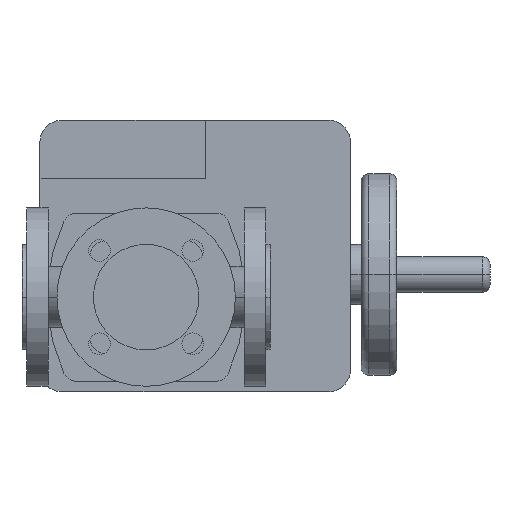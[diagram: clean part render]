
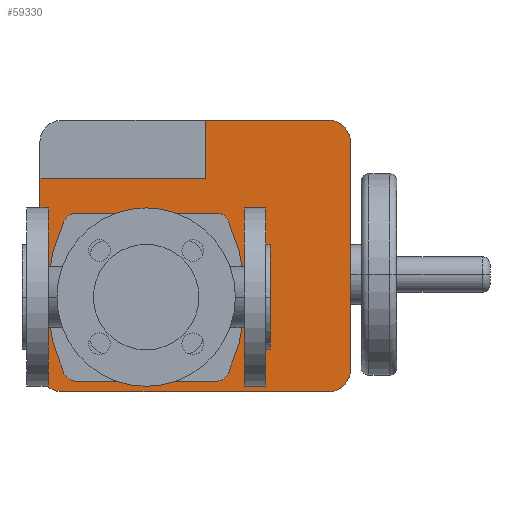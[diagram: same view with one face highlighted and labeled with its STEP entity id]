
A CAD part, front view. The second image highlights one B-rep face of the part: STEP entity #59330.
In plain terms, the highlighted planar face has unit normal (0, -1, 0).
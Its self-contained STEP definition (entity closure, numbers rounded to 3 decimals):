
#51270=CARTESIAN_POINT('',(118.1,569.,38.25));
#51280=DIRECTION('',(0.,0.,-1.));
#51290=VECTOR('',#51280,1.);
#51300=LINE('',#51270,#51290);
#51310=CARTESIAN_POINT('',(118.1,569.,114.));
#51320=VERTEX_POINT('',#51310);
#51330=CARTESIAN_POINT('',(118.1,569.,76.5));
#51340=VERTEX_POINT('',#51330);
#51350=EDGE_CURVE('',#51320,#51340,#51300,.T.);
#53980=CARTESIAN_POINT('',(211.6,569.,100.));
#53990=VERTEX_POINT('',#53980);
#54040=CARTESIAN_POINT('',(197.6,569.,100.));
#54050=DIRECTION('',(0.,1.,0.));
#54060=DIRECTION('',(0.,0.,1.));
#54070=AXIS2_PLACEMENT_3D('',#54040,#54050,#54060);
#54080=CIRCLE('',#54070,14.);
#54090=CARTESIAN_POINT('',(197.6,569.,114.));
#54100=VERTEX_POINT('',#54090);
#54110=EDGE_CURVE('',#54100,#53990,#54080,.T.);
#57640=CARTESIAN_POINT('',(197.6,569.,-61.));
#57650=VERTEX_POINT('',#57640);
#57700=CARTESIAN_POINT('',(197.6,569.,-47.));
#57710=DIRECTION('',(0.,1.,0.));
#57720=DIRECTION('',(1.,0.,0.));
#57730=AXIS2_PLACEMENT_3D('',#57700,#57710,#57720);
#57740=CIRCLE('',#57730,14.);
#57750=CARTESIAN_POINT('',(211.6,569.,-47.));
#57760=VERTEX_POINT('',#57750);
#57770=EDGE_CURVE('',#57760,#57650,#57740,.T.);
#58080=CARTESIAN_POINT('',(80.,569.,0.));
#58090=DIRECTION('',(0.,1.,0.));
#58100=DIRECTION('',(0.,0.,1.));
#58110=AXIS2_PLACEMENT_3D('',#58080,#58090,#58100);
#58120=PLANE('',#58110);
#58130=CARTESIAN_POINT('',(132.2,569.,0.));
#58140=DIRECTION('',(0.,1.,0.));
#58150=DIRECTION('',(-0.906,0.,-0.422));
#58160=AXIS2_PLACEMENT_3D('',#58130,#58140,#58150);
#58170=CIRCLE('',#58160,116.);
#58180=CARTESIAN_POINT('',(27.058,569.,-49.002));
#58190=VERTEX_POINT('',#58180);
#58200=CARTESIAN_POINT('',(27.058,569.,49.002));
#58210=VERTEX_POINT('',#58200);
#58220=EDGE_CURVE('',#58190,#58210,#58170,.T.);
#58230=ORIENTED_EDGE('',*,*,#58220,.T.);
#58240=CARTESIAN_POINT('',(35.216,569.,-45.2));
#58250=DIRECTION('',(0.,1.,0.));
#58260=DIRECTION('',(0.,0.,-1.));
#58270=AXIS2_PLACEMENT_3D('',#58240,#58250,#58260);
#58280=CIRCLE('',#58270,9.);
#58290=CARTESIAN_POINT('',(35.216,569.,-54.2));
#58300=VERTEX_POINT('',#58290);
#58310=EDGE_CURVE('',#58300,#58190,#58280,.T.);
#58320=ORIENTED_EDGE('',*,*,#58310,.T.);
#58330=CARTESIAN_POINT('',(102.392,569.,-54.2));
#58340=DIRECTION('',(-1.,0.,0.));
#58350=VECTOR('',#58340,1.);
#58360=LINE('',#58330,#58350);
#58370=CARTESIAN_POINT('',(124.784,569.,-54.2));
#58380=VERTEX_POINT('',#58370);
#58390=EDGE_CURVE('',#58380,#58300,#58360,.T.);
#58400=ORIENTED_EDGE('',*,*,#58390,.T.);
#58410=CARTESIAN_POINT('',(124.784,569.,-45.2));
#58420=DIRECTION('',(0.,1.,0.));
#58430=DIRECTION('',(0.906,0.,-0.422));
#58440=AXIS2_PLACEMENT_3D('',#58410,#58420,#58430);
#58450=CIRCLE('',#58440,9.);
#58460=CARTESIAN_POINT('',(132.942,569.,-49.002));
#58470=VERTEX_POINT('',#58460);
#58480=EDGE_CURVE('',#58470,#58380,#58450,.T.);
#58490=ORIENTED_EDGE('',*,*,#58480,.T.);
#58500=CARTESIAN_POINT('',(27.8,569.,0.))
;
#58510=DIRECTION('',(0.,1.,0.));
#58520=DIRECTION('',(0.906,0.,0.422));
#58530=AXIS2_PLACEMENT_3D('',#58500,#58510,#58520);
#58540=CIRCLE('',#58530,116.);
#58550=CARTESIAN_POINT('',(132.942,569.,49.002));
#58560=VERTEX_POINT('',#58550);
#58570=EDGE_CURVE('',#58560,#58470,#58540,.T.);
#58580=ORIENTED_EDGE('',*,*,#58570,.T.);
#58590=CARTESIAN_POINT('',(124.784,569.,45.2));
#58600=DIRECTION('',(0.,1.,0.));
#58610=DIRECTION('',(0.,0.,1.));
#58620=AXIS2_PLACEMENT_3D('',#58590,#58600,#58610);
#58630=CIRCLE('',#58620,9.);
#58640=CARTESIAN_POINT('',(124.784,569.,54.2));
#58650=VERTEX_POINT('',#58640);
#58660=EDGE_CURVE('',#58650,#58560,#58630,.T.);
#58670=ORIENTED_EDGE('',*,*,#58660,.T.);
#58680=CARTESIAN_POINT('',(57.608,569.,54.2));
#58690=DIRECTION('',(1.,0.,0.));
#58700=VECTOR('',#58690,1.);
#58710=LINE('',#58680,#58700);
#58720=CARTESIAN_POINT('',(35.216,569.,54.2));
#58730=VERTEX_POINT('',#58720);
#58740=EDGE_CURVE('',#58730,#58650,#58710,.T.);
#58750=ORIENTED_EDGE('',*,*,#58740,.T.);
#58760=CARTESIAN_POINT('',(35.216,569.,45.2));
#58770=DIRECTION('',(0.,1.,0.));
#58780=DIRECTION('',(-0.906,0.,0.422));
#58790=AXIS2_PLACEMENT_3D('',#58760,#58770,#58780);
#58800=CIRCLE('',#58790,9.);
#58810=EDGE_CURVE('',#58210,#58730,#58800,.T.);
#58820=ORIENTED_EDGE('',*,*,#58810,.T.);
#58830=EDGE_LOOP('',(#58820,#58750,#58670,#58580,#58490,#58400,#58320,
#58230));
#58840=FACE_BOUND('',#58830,.T.);
#58850=ORIENTED_EDGE('',*,*,#51350,.T.);
#58860=CARTESIAN_POINT('',(25.6,569.,114.));
#58870=DIRECTION('',(1.,0.,0.));
#58880=VECTOR('',#58870,1.);
#58890=LINE('',#58860,#58880);
#58900=EDGE_CURVE('',#51320,#54100,#58890,.T.);
#58910=ORIENTED_EDGE('',*,*,#58900,.F.);
#58920=ORIENTED_EDGE('',*,*,#54110,.F.);
#58930=CARTESIAN_POINT('',(211.6,569.,100.));
#58940=DIRECTION('',(0.,0.,-1.));
#58950=VECTOR('',#58940,1.);
#58960=LINE('',#58930,#58950);
#58970=EDGE_CURVE('',#53990,#57760,#58960,.T.);
#58980=ORIENTED_EDGE('',*,*,#58970,.F.);
#58990=ORIENTED_EDGE('',*,*,#57770,.F.);
#59000=CARTESIAN_POINT('',(197.6,569.,-61.));
#59010=DIRECTION('',(-1.,0.,0.));
#59020=VECTOR('',#59010,1.);
#59030=LINE('',#59000,#59020);
#59040=CARTESIAN_POINT('',(25.6,569.,-61.));
#59050=VERTEX_POINT('',#59040);
#59060=EDGE_CURVE('',#57650,#59050,#59030,.T.);
#59070=ORIENTED_EDGE('',*,*,#59060,.F.);
#59080=CARTESIAN_POINT('',(25.6,569.,-47.));
#59090=DIRECTION('',(0.,1.,0.));
#59100=DIRECTION('',(0.,0.,-1.));
#59110=AXIS2_PLACEMENT_3D('',#59080,#59090,#59100);
#59120=CIRCLE('',#59110,14.);
#59130=CARTESIAN_POINT('',(11.6,569.,-47.));
#59140=VERTEX_POINT('',#59130);
#59150=EDGE_CURVE('',#59050,#59140,#59120,.T.);
#59160=ORIENTED_EDGE('',*,*,#59150,.F.);
#59170=CARTESIAN_POINT('',(11.6,569.,-47.));
#59180=DIRECTION('',(0.,0.,1.));
#59190=VECTOR('',#59180,1.);
#59200=LINE('',#59170,#59190);
#59210=CARTESIAN_POINT('',(11.6,569.,76.5));
#59220=VERTEX_POINT('',#59210);
#59230=EDGE_CURVE('',#59140,#59220,#59200,.T.);
#59240=ORIENTED_EDGE('',*,*,#59230,.F.);
#59250=CARTESIAN_POINT('',(45.3,569.,76.5));
#59260=DIRECTION('',(-1.,0.,0.));
#59270=VECTOR('',#59260,1.);
#59280=LINE('',#59250,#59270);
#59290=EDGE_CURVE('',#51340,#59220,#59280,.T.);
#59300=ORIENTED_EDGE('',*,*,#59290,.T.);
#59310=EDGE_LOOP('',(#59300,#59240,#59160,#59070,#58990,#58980,#58920,
#58910,#58850));
#59320=FACE_OUTER_BOUND('',#59310,.T.);
#59330=ADVANCED_FACE('',(#58840,#59320),#58120,.F.);
